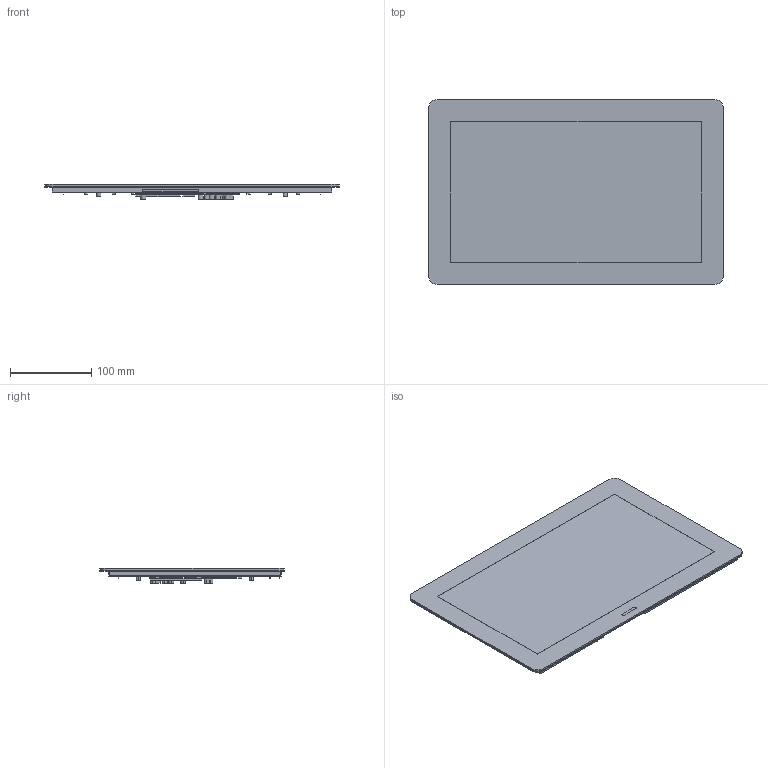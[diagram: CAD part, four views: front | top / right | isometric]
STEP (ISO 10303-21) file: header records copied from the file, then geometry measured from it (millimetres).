
FILE_DESCRIPTION((''),'2;1');
FILE_NAME('DMG9108C140-03WTR','2022-04-28T',('Administrator'),(''),'PRO/ENGINEER BY PARAMETRIC TECHNOLOGY CORPORATION, 2011310','PRO/ENGINEER BY PARAMETRIC TECHNOLOGY CORPORATION, 2011310','');
FILE_SCHEMA(('CONFIG_CONTROL_DESIGN','SHAPE_APPEARANCE_LAYERS_GROUPS'));
Length unit declared in the file: millimetre
Products named in the file (1): DMG9108C140-03WTR
Bounding box: 363.57 x 228.25 x 18.84 mm (x, y, z)
Volume: 414619.3 mm3; surface area: 487158 mm2
Topology: 1 solids, 2 shells, 576 faces, 1690 edges, 1106 vertices
Faces by surface type: plane 404, cylinder 172
Entity records: 23016 total; most frequent: ORIENTED_EDGE 3380, CARTESIAN_POINT 3372, DIRECTION 3186, EDGE_CURVE 1690, VECTOR 1346, LINE 1346, VERTEX_POINT 1106, AXIS2_PLACEMENT_3D 920
